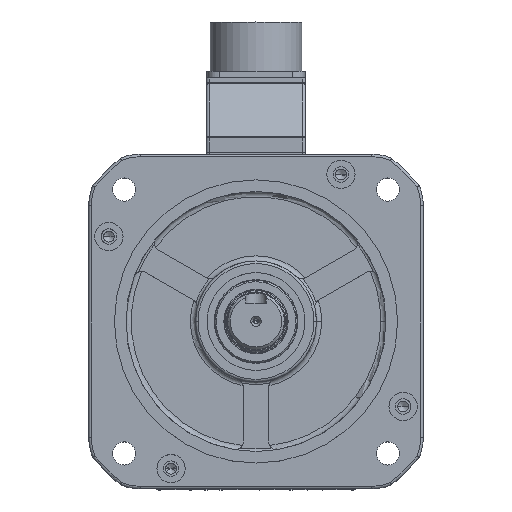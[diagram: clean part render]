
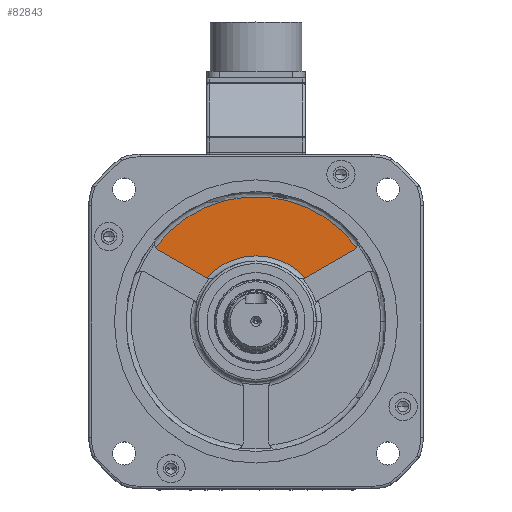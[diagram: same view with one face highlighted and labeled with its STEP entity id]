
A CAD part, top view. The second image highlights one B-rep face of the part: STEP entity #82843.
In plain terms, the highlighted planar face has unit normal (0, 0, 1).
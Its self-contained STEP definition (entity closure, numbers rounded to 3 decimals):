
#778 = VERTEX_POINT ( 'NONE', #46843 ) ;
#850 = DIRECTION ( 'NONE',  ( 0., 0., 1. ) ) ;
#969 = AXIS2_PLACEMENT_3D ( 'NONE', #32749, #850, #33579 ) ;
#1173 = DIRECTION ( 'NONE',  ( 1., 0., 0. ) ) ;
#1801 = AXIS2_PLACEMENT_3D ( 'NONE', #32246, #51570, #1173 ) ;
#2717 = DIRECTION ( 'NONE',  ( 0., 0., -1. ) ) ;
#3010 = ORIENTED_EDGE ( 'NONE', *, *, #46991, .F. ) ;
#3229 = FACE_OUTER_BOUND ( 'NONE', #4881, .T. ) ;
#3623 = AXIS2_PLACEMENT_3D ( 'NONE', #20551, #46161, #39854 ) ;
#3950 = AXIS2_PLACEMENT_3D ( 'NONE', #28037, #15453, #82166 ) ;
#4068 = ORIENTED_EDGE ( 'NONE', *, *, #82715, .T. ) ;
#4881 = EDGE_LOOP ( 'NONE', ( #47071, #65239, #74868, #4068, #80372, #52838, #48314, #3010 ) ) ;
#6344 = EDGE_CURVE ( 'NONE', #44687, #64860, #51146, .T. ) ;
#7819 = DIRECTION ( 'NONE',  ( 0., 0., 1. ) ) ;
#9457 = CARTESIAN_POINT ( 'NONE',  ( 19.379, 16.962, 0.5 ) ) ;
#14151 = VERTEX_POINT ( 'NONE', #9457 ) ;
#15351 = DIRECTION ( 'NONE',  ( 1., 0., 0. ) ) ;
#15453 = DIRECTION ( 'NONE',  ( 0., 0., 1. ) ) ;
#15945 = CARTESIAN_POINT ( 'NONE',  ( 2.5, 4.33, 0.5 ) ) ;
#16636 = VECTOR ( 'NONE', #47857, 1000. ) ;
#17072 = CIRCLE ( 'NONE', #3623, 3. ) ;
#17391 = VECTOR ( 'NONE', #41079, 1000. ) ;
#17417 = CARTESIAN_POINT ( 'NONE',  ( -19.379, 16.962, 0.5 ) ) ;
#18334 = AXIS2_PLACEMENT_3D ( 'NONE', #27946, #59899, #42209 ) ;
#20551 = CARTESIAN_POINT ( 'NONE',  ( 17.879, 19.56, 0.5 ) ) ;
#20586 = VERTEX_POINT ( 'NONE', #17417 ) ;
#23244 = CIRCLE ( 'NONE', #1801, 3. ) ;
#27946 = CARTESIAN_POINT ( 'NONE',  ( 0., 0., 0.5 ) ) ;
#28037 = CARTESIAN_POINT ( 'NONE',  ( 0., 0., 0.5 ) ) ;
#29111 = CIRCLE ( 'NONE', #969, 3. ) ;
#29252 = EDGE_CURVE ( 'NONE', #37815, #778, #23244, .T. ) ;
#30969 = AXIS2_PLACEMENT_3D ( 'NONE', #65782, #7819, #15351 ) ;
#31278 = AXIS2_PLACEMENT_3D ( 'NONE', #40141, #2717, #60275 ) ;
#32246 = CARTESIAN_POINT ( 'NONE',  ( -36.549, 30.339, 0.5 ) ) ;
#32749 = CARTESIAN_POINT ( 'NONE',  ( -17.879, 19.56, 0.5 ) ) ;
#33139 = CARTESIAN_POINT ( 'NONE',  ( -39.078, 28.726, 0.5 ) ) ;
#33186 = VERTEX_POINT ( 'NONE', #69241 ) ;
#33579 = DIRECTION ( 'NONE',  ( 1., 0., 0. ) ) ;
#37815 = VERTEX_POINT ( 'NONE', #33139 ) ;
#37969 = CARTESIAN_POINT ( 'NONE',  ( -19.147, 16.841, 0.5 ) ) ;
#39854 = DIRECTION ( 'NONE',  ( 1., 0., 0. ) ) ;
#40141 = CARTESIAN_POINT ( 'NONE',  ( 0., 0., 0.5 ) ) ;
#40313 = EDGE_CURVE ( 'NONE', #64860, #37815, #70616, .T. ) ;
#41055 = EDGE_CURVE ( 'NONE', #33186, #14151, #17072, .T. ) ;
#41079 = DIRECTION ( 'NONE',  ( 0.866, 0.5, 0. ) ) ;
#42209 = DIRECTION ( 'NONE',  ( 1., 0., 0. ) ) ;
#44687 = VERTEX_POINT ( 'NONE', #70484 ) ;
#46161 = DIRECTION ( 'NONE',  ( 0., 0., 1. ) ) ;
#46843 = CARTESIAN_POINT ( 'NONE',  ( -38.049, 27.741, 0.5 ) ) ;
#46991 = EDGE_CURVE ( 'NONE', #20586, #778, #61710, .T. ) ;
#47071 = ORIENTED_EDGE ( 'NONE', *, *, #71435, .T. ) ;
#47351 = CARTESIAN_POINT ( 'NONE',  ( -2.5, 4.33, 0.5 ) ) ;
#47857 = DIRECTION ( 'NONE',  ( -0.866, 0.5, 0. ) ) ;
#48314 = ORIENTED_EDGE ( 'NONE', *, *, #29252, .T. ) ;
#51146 = CIRCLE ( 'NONE', #30969, 3. ) ;
#51570 = DIRECTION ( 'NONE',  ( 0., 0., 1. ) ) ;
#52838 = ORIENTED_EDGE ( 'NONE', *, *, #40313, .T. ) ;
#55992 = VERTEX_POINT ( 'NONE', #37969 ) ;
#59899 = DIRECTION ( 'NONE',  ( 0., 0., 1. ) ) ;
#60275 = DIRECTION ( 'NONE',  ( 1., 0., 0. ) ) ;
#61710 = LINE ( 'NONE', #15945, #16636 ) ;
#64860 = VERTEX_POINT ( 'NONE', #82550 ) ;
#65239 = ORIENTED_EDGE ( 'NONE', *, *, #66047, .T. ) ;
#65782 = CARTESIAN_POINT ( 'NONE',  ( 36.549, 30.339, 0.5 ) ) ;
#66047 = EDGE_CURVE ( 'NONE', #55992, #33186, #74205, .T. ) ;
#66283 = PLANE ( 'NONE',  #3950 ) ;
#69241 = CARTESIAN_POINT ( 'NONE',  ( 19.147, 16.841, 0.5 ) ) ;
#70484 = CARTESIAN_POINT ( 'NONE',  ( 38.049, 27.741, 0.5 ) ) ;
#70616 = CIRCLE ( 'NONE', #18334, 48.5 ) ;
#71435 = EDGE_CURVE ( 'NONE', #20586, #55992, #29111, .T. ) ;
#74205 = CIRCLE ( 'NONE', #31278, 25.5 ) ;
#74868 = ORIENTED_EDGE ( 'NONE', *, *, #41055, .T. ) ;
#79689 = LINE ( 'NONE', #47351, #17391 ) ;
#80372 = ORIENTED_EDGE ( 'NONE', *, *, #6344, .T. ) ;
#82166 = DIRECTION ( 'NONE',  ( 1., 0., 0. ) ) ;
#82550 = CARTESIAN_POINT ( 'NONE',  ( 39.078, 28.726, 0.5 ) ) ;
#82715 = EDGE_CURVE ( 'NONE', #14151, #44687, #79689, .T. ) ;
#82843 = ADVANCED_FACE ( 'NONE', ( #3229 ), #66283, .T. ) ;
